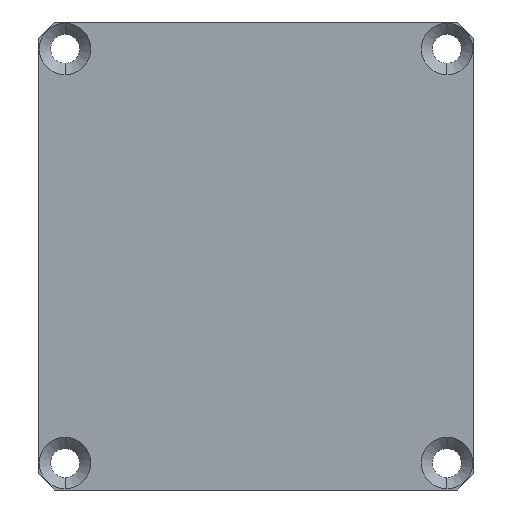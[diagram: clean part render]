
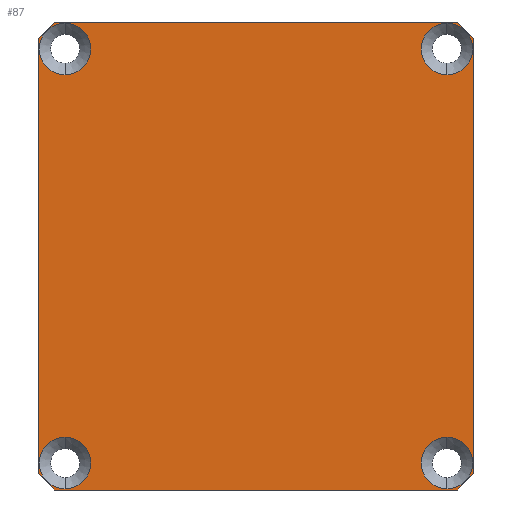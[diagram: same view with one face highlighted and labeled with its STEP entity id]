
A CAD part, front view. The second image highlights one B-rep face of the part: STEP entity #87.
In plain terms, the highlighted planar face has unit normal (0, -1, 0).
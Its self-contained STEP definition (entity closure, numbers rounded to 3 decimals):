
#87=ADVANCED_FACE('',(#193,#194,#195,#196,#138),#530,.T.);
#138=FACE_OUTER_BOUND('',#207,.F.);
#193=FACE_BOUND('',#203,.F.);
#194=FACE_BOUND('',#204,.F.);
#195=FACE_BOUND('',#205,.F.);
#196=FACE_BOUND('',#206,.F.);
#203=EDGE_LOOP('',(#289,#290));
#204=EDGE_LOOP('',(#291,#292));
#205=EDGE_LOOP('',(#293,#294));
#206=EDGE_LOOP('',(#295,#296));
#207=EDGE_LOOP('',(#297,#298,#299,#300,#301,#302,#303,#304));
#289=ORIENTED_EDGE('',*,*,#711,.T.);
#290=ORIENTED_EDGE('',*,*,#710,.T.);
#291=ORIENTED_EDGE('',*,*,#715,.T.);
#292=ORIENTED_EDGE('',*,*,#714,.T.);
#293=ORIENTED_EDGE('',*,*,#713,.T.);
#294=ORIENTED_EDGE('',*,*,#712,.T.);
#295=ORIENTED_EDGE('',*,*,#709,.T.);
#296=ORIENTED_EDGE('',*,*,#708,.T.);
#297=ORIENTED_EDGE('',*,*,#760,.F.);
#298=ORIENTED_EDGE('',*,*,#752,.T.);
#299=ORIENTED_EDGE('',*,*,#761,.F.);
#300=ORIENTED_EDGE('',*,*,#740,.T.);
#301=ORIENTED_EDGE('',*,*,#762,.F.);
#302=ORIENTED_EDGE('',*,*,#744,.T.);
#303=ORIENTED_EDGE('',*,*,#763,.F.);
#304=ORIENTED_EDGE('',*,*,#748,.T.);
#530=PLANE('',#1047);
#556=LINE('',#1517,#636);
#560=LINE('',#1521,#640);
#564=LINE('',#1525,#644);
#568=LINE('',#1529,#648);
#576=LINE('',#1537,#656);
#577=LINE('',#1538,#657);
#578=LINE('',#1539,#658);
#579=LINE('',#1540,#659);
#636=VECTOR('',#1156,2.121);
#640=VECTOR('',#1160,2.121);
#644=VECTOR('',#1164,2.121);
#648=VECTOR('',#1168,2.121);
#656=VECTOR('',#1176,40.5);
#657=VECTOR('',#1177,37.5);
#658=VECTOR('',#1178,40.5);
#659=VECTOR('',#1179,37.5);
#708=EDGE_CURVE('',#987,#986,#844,.T.);
#709=EDGE_CURVE('',#986,#987,#845,.T.);
#710=EDGE_CURVE('',#985,#984,#846,.T.);
#711=EDGE_CURVE('',#984,#985,#847,.T.);
#712=EDGE_CURVE('',#983,#982,#848,.T.);
#713=EDGE_CURVE('',#982,#983,#849,.T.);
#714=EDGE_CURVE('',#981,#980,#850,.T.);
#715=EDGE_CURVE('',#980,#981,#851,.T.);
#740=EDGE_CURVE('',#955,#954,#556,.T.);
#744=EDGE_CURVE('',#951,#950,#560,.T.);
#748=EDGE_CURVE('',#947,#946,#564,.T.);
#752=EDGE_CURVE('',#943,#942,#568,.T.);
#760=EDGE_CURVE('',#943,#946,#576,.T.);
#761=EDGE_CURVE('',#955,#942,#577,.T.);
#762=EDGE_CURVE('',#951,#954,#578,.T.);
#763=EDGE_CURVE('',#947,#950,#579,.T.);
#844=CIRCLE('',#990,2.4);
#845=CIRCLE('',#991,2.4);
#846=CIRCLE('',#992,2.4);
#847=CIRCLE('',#993,2.4);
#848=CIRCLE('',#994,2.4);
#849=CIRCLE('',#995,2.4);
#850=CIRCLE('',#996,2.4);
#851=CIRCLE('',#997,2.4);
#942=VERTEX_POINT('',#1439);
#943=VERTEX_POINT('',#1440);
#946=VERTEX_POINT('',#1443);
#947=VERTEX_POINT('',#1444);
#950=VERTEX_POINT('',#1447);
#951=VERTEX_POINT('',#1448);
#954=VERTEX_POINT('',#1451);
#955=VERTEX_POINT('',#1452);
#980=VERTEX_POINT('',#1477);
#981=VERTEX_POINT('',#1478);
#982=VERTEX_POINT('',#1479);
#983=VERTEX_POINT('',#1480);
#984=VERTEX_POINT('',#1481);
#985=VERTEX_POINT('',#1482);
#986=VERTEX_POINT('',#1483);
#987=VERTEX_POINT('',#1484);
#990=AXIS2_PLACEMENT_3D('',#1485,#1100,#1101);
#991=AXIS2_PLACEMENT_3D('',#1486,#1102,#1103);
#992=AXIS2_PLACEMENT_3D('',#1487,#1104,#1105);
#993=AXIS2_PLACEMENT_3D('',#1488,#1106,#1107);
#994=AXIS2_PLACEMENT_3D('',#1489,#1108,#1109);
#995=AXIS2_PLACEMENT_3D('',#1490,#1110,#1111);
#996=AXIS2_PLACEMENT_3D('',#1491,#1112,#1113);
#997=AXIS2_PLACEMENT_3D('',#1492,#1114,#1115);
#1047=AXIS2_PLACEMENT_3D('',#1622,#1294,#1295);
#1100=DIRECTION('',(0.,-1.,0.));
#1101=DIRECTION('',(0.,0.,1.));
#1102=DIRECTION('',(0.,-1.,0.));
#1103=DIRECTION('',(0.,0.,-1.));
#1104=DIRECTION('',(0.,-1.,0.));
#1105=DIRECTION('',(0.,0.,1.));
#1106=DIRECTION('',(0.,-1.,0.));
#1107=DIRECTION('',(0.,0.,-1.));
#1108=DIRECTION('',(0.,-1.,0.));
#1109=DIRECTION('',(0.,0.,1.));
#1110=DIRECTION('',(0.,-1.,0.));
#1111=DIRECTION('',(0.,0.,-1.));
#1112=DIRECTION('',(0.,-1.,0.));
#1113=DIRECTION('',(0.,0.,1.));
#1114=DIRECTION('',(0.,-1.,0.));
#1115=DIRECTION('',(0.,0.,-1.));
#1156=DIRECTION('',(-0.707,0.,0.707));
#1160=DIRECTION('',(0.707,0.,0.707));
#1164=DIRECTION('',(0.707,0.,-0.707));
#1168=DIRECTION('',(-0.707,0.,-0.707));
#1176=DIRECTION('',(0.,0.,1.));
#1177=DIRECTION('',(1.,0.,0.));
#1178=DIRECTION('',(0.,0.,-1.));
#1179=DIRECTION('',(-1.,0.,0.));
#1294=DIRECTION('',(0.,-1.,0.));
#1295=DIRECTION('',(1.,0.,0.));
#1439=CARTESIAN_POINT('',(18.75,-202.4,244.08));
#1440=CARTESIAN_POINT('',(20.25,-202.4,245.58));
#1443=CARTESIAN_POINT('',(20.25,-202.4,286.08));
#1444=CARTESIAN_POINT('',(18.75,-202.4,287.58));
#1447=CARTESIAN_POINT('',(-18.75,-202.4,287.58));
#1448=CARTESIAN_POINT('',(-20.25,-202.4,286.08));
#1451=CARTESIAN_POINT('',(-20.25,-202.4,245.58));
#1452=CARTESIAN_POINT('',(-18.75,-202.4,244.08));
#1477=CARTESIAN_POINT('',(17.75,-202.4,244.18));
#1478=CARTESIAN_POINT('',(17.75,-202.4,248.98));
#1479=CARTESIAN_POINT('',(-17.75,-202.4,244.18));
#1480=CARTESIAN_POINT('',(-17.75,-202.4,248.98));
#1481=CARTESIAN_POINT('',(-17.75,-202.4,282.68));
#1482=CARTESIAN_POINT('',(-17.75,-202.4,287.48));
#1483=CARTESIAN_POINT('',(17.75,-202.4,282.68));
#1484=CARTESIAN_POINT('',(17.75,-202.4,287.48));
#1485=CARTESIAN_POINT('',(17.75,-202.4,285.08));
#1486=CARTESIAN_POINT('',(17.75,-202.4,285.08));
#1487=CARTESIAN_POINT('',(-17.75,-202.4,285.08));
#1488=CARTESIAN_POINT('',(-17.75,-202.4,285.08));
#1489=CARTESIAN_POINT('',(-17.75,-202.4,246.58));
#1490=CARTESIAN_POINT('',(-17.75,-202.4,246.58));
#1491=CARTESIAN_POINT('',(17.75,-202.4,246.58));
#1492=CARTESIAN_POINT('',(17.75,-202.4,246.58));
#1517=CARTESIAN_POINT('',(-18.75,-202.4,244.08));
#1521=CARTESIAN_POINT('',(-20.25,-202.4,286.08));
#1525=CARTESIAN_POINT('',(18.75,-202.4,287.58));
#1529=CARTESIAN_POINT('',(20.25,-202.4,245.58));
#1537=CARTESIAN_POINT('',(20.25,-202.4,245.58));
#1538=CARTESIAN_POINT('',(-18.75,-202.4,244.08));
#1539=CARTESIAN_POINT('',(-20.25,-202.4,286.08));
#1540=CARTESIAN_POINT('',(18.75,-202.4,287.58));
#1622=CARTESIAN_POINT('',(-20.685,-202.4,243.645));
